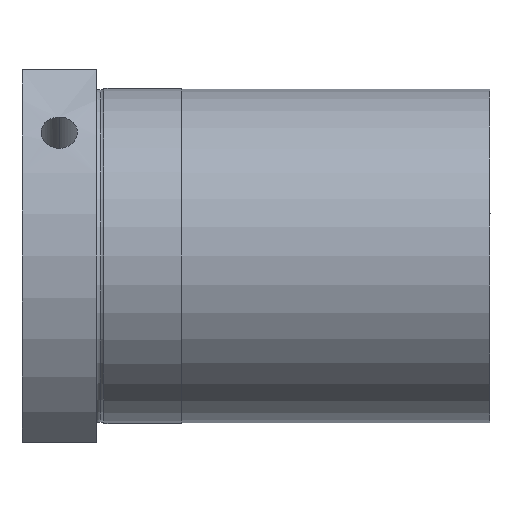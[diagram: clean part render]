
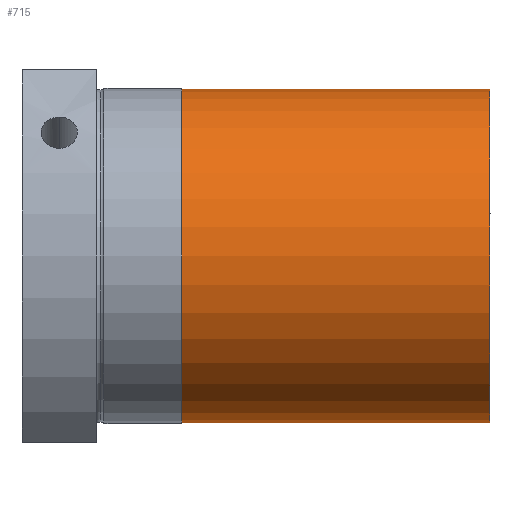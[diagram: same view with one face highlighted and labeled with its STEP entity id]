
A CAD part, front view. The second image highlights one B-rep face of the part: STEP entity #715.
In plain terms, the highlighted cylindrical face has radius 31.4 mm (diameter 62.8 mm), a partial arc.
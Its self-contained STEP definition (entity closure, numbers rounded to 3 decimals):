
#133 = DIRECTION ( 'NONE',  ( -1., 0., 0. ) ) ;
#330 = EDGE_CURVE ( 'NONE', #467, #2291, #2915, .T. ) ;
#414 = DIRECTION ( 'NONE',  ( -1., 0., 0. ) ) ;
#467 = VERTEX_POINT ( 'NONE', #2575 ) ;
#715 = ADVANCED_FACE ( 'NONE', ( #1571 ), #2533, .T. ) ;
#930 = EDGE_LOOP ( 'NONE', ( #989, #1458, #2607, #3114 ) ) ;
#989 = ORIENTED_EDGE ( 'NONE', *, *, #330, .F. ) ;
#1143 = DIRECTION ( 'NONE',  ( 0., 0., 1. ) ) ;
#1148 = DIRECTION ( 'NONE',  ( -1., 0., 0. ) ) ;
#1239 = CIRCLE ( 'NONE', #4159, 31.4 ) ;
#1393 = CARTESIAN_POINT ( 'NONE',  ( -13.234, 0., -31.4 ) ) ;
#1458 = ORIENTED_EDGE ( 'NONE', *, *, #3659, .T. ) ;
#1489 = EDGE_CURVE ( 'NONE', #2291, #4507, #1239, .T. ) ;
#1569 = AXIS2_PLACEMENT_3D ( 'NONE', #1652, #1148, #1143 ) ;
#1571 = FACE_OUTER_BOUND ( 'NONE', #930, .T. ) ;
#1588 = LINE ( 'NONE', #2068, #3604 ) ;
#1652 = CARTESIAN_POINT ( 'NONE',  ( -100.792, 0., 0. ) ) ;
#1735 = CARTESIAN_POINT ( 'NONE',  ( -100.792, 0., -31.4 ) ) ;
#1939 = EDGE_CURVE ( 'NONE', #2540, #4507, #1588, .T. ) ;
#2064 = AXIS2_PLACEMENT_3D ( 'NONE', #2619, #133, #3020 ) ;
#2068 = CARTESIAN_POINT ( 'NONE',  ( -100.792, 0., 31.4 ) ) ;
#2092 = VECTOR ( 'NONE', #2120, 1000. ) ;
#2120 = DIRECTION ( 'NONE',  ( -1., 0., 0. ) ) ;
#2181 = CARTESIAN_POINT ( 'NONE',  ( -13.234, 0., 31.4 ) ) ;
#2288 = DIRECTION ( 'NONE',  ( -1., 0., 0. ) ) ;
#2291 = VERTEX_POINT ( 'NONE', #1393 ) ;
#2533 = CYLINDRICAL_SURFACE ( 'NONE', #1569, 31.4 ) ;
#2540 = VERTEX_POINT ( 'NONE', #3934 ) ;
#2575 = CARTESIAN_POINT ( 'NONE',  ( 44.766, 0., -31.4 ) ) ;
#2607 = ORIENTED_EDGE ( 'NONE', *, *, #1939, .T. ) ;
#2619 = CARTESIAN_POINT ( 'NONE',  ( 44.766, 0., 0. ) ) ;
#2915 = LINE ( 'NONE', #1735, #2092 ) ;
#3020 = DIRECTION ( 'NONE',  ( 0., 0., 1. ) ) ;
#3114 = ORIENTED_EDGE ( 'NONE', *, *, #1489, .F. ) ;
#3604 = VECTOR ( 'NONE', #414, 1000. ) ;
#3659 = EDGE_CURVE ( 'NONE', #467, #2540, #4335, .T. ) ;
#3934 = CARTESIAN_POINT ( 'NONE',  ( 44.766, 0., 31.4 ) ) ;
#4159 = AXIS2_PLACEMENT_3D ( 'NONE', #4657, #2288, #5035 ) ;
#4335 = CIRCLE ( 'NONE', #2064, 31.4 ) ;
#4507 = VERTEX_POINT ( 'NONE', #2181 ) ;
#4657 = CARTESIAN_POINT ( 'NONE',  ( -13.234, 0., 0. ) ) ;
#5035 = DIRECTION ( 'NONE',  ( 0., 0., 1. ) ) ;
